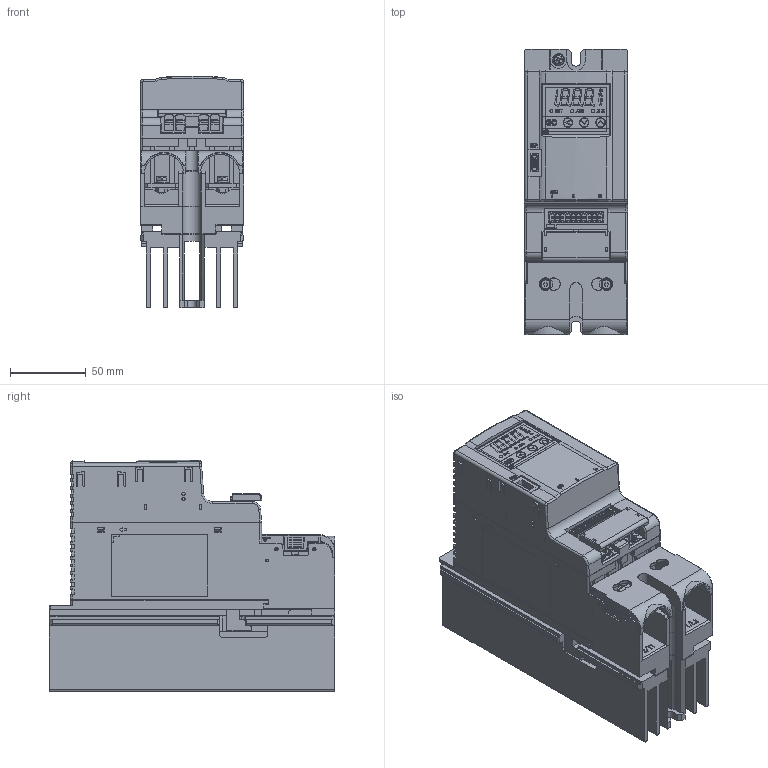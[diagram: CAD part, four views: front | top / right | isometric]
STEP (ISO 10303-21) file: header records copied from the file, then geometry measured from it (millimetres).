
FILE_DESCRIPTION (( 'STEP AP203' ), '1' );
FILE_NAME ('THV-40(20A)_web.STEP', '2022-12-16T00:57:09', ( '' ), ( '' ), 'SwSTEP 2.0', 'SolidWorks 2021', '' );
FILE_SCHEMA (( 'CONFIG_CONTROL_DESIGN' ));
Length unit declared in the file: millimetre
Products named in the file (2): THV-40(20A)_web; THV-40(20A)(基本設計)_web
Assembly tree (1 placements, depth 2):
  THV-40(20A)_web
    THV-40(20A)(基本設計)_web
Bounding box: 68 x 188 x 152.65 mm (x, y, z)
Surface area: 302556.5 mm2 (no closed solid volume)
Topology: 0 solids, 754 shells, 5452 faces, 16807 edges, 12270 vertices
Faces by surface type: plane 4011, cylinder 876, bspline 383, sphere 75, torus 58, cone 49
Full cylindrical faces by diameter (mm): 0.2 x1, 0.4 x1, 0.457 x1, 1.2 x10, 1.262 x4, 1.6 x11, 1.8 x2, 2 x2, 2.1 x3, 2.2 x2, 2.3 x4, 2.5 x4, 2.6 x1, 3 x4, 3.3 x2, 3.5 x1, 4 x7, 4.5 x2, 4.8 x2, 5.2 x2, 5.5 x6, 5.75 x3, 6.25 x3, 7 x3, 8 x1, 9 x2
Entity records: 199492 total; most frequent: CARTESIAN_POINT 55753, ORIENTED_EDGE 29206, DIRECTION 26261, EDGE_CURVE 16595, LINE 12317, VECTOR 12317, VERTEX_POINT 12240, AXIS2_PLACEMENT_3D 6972
